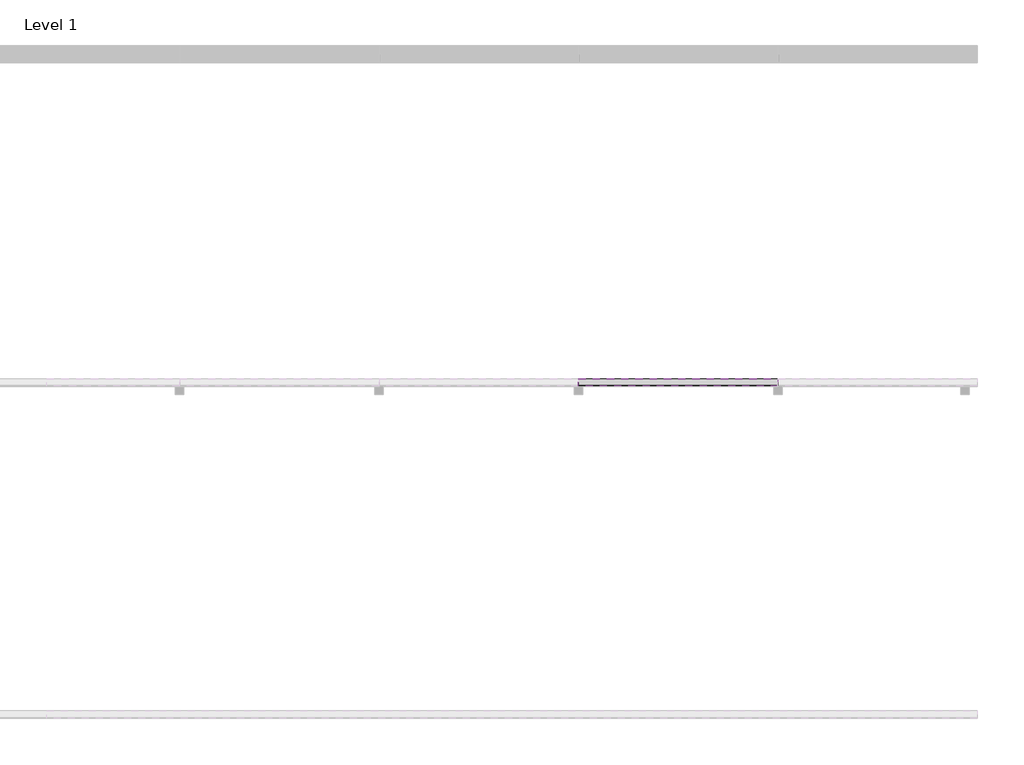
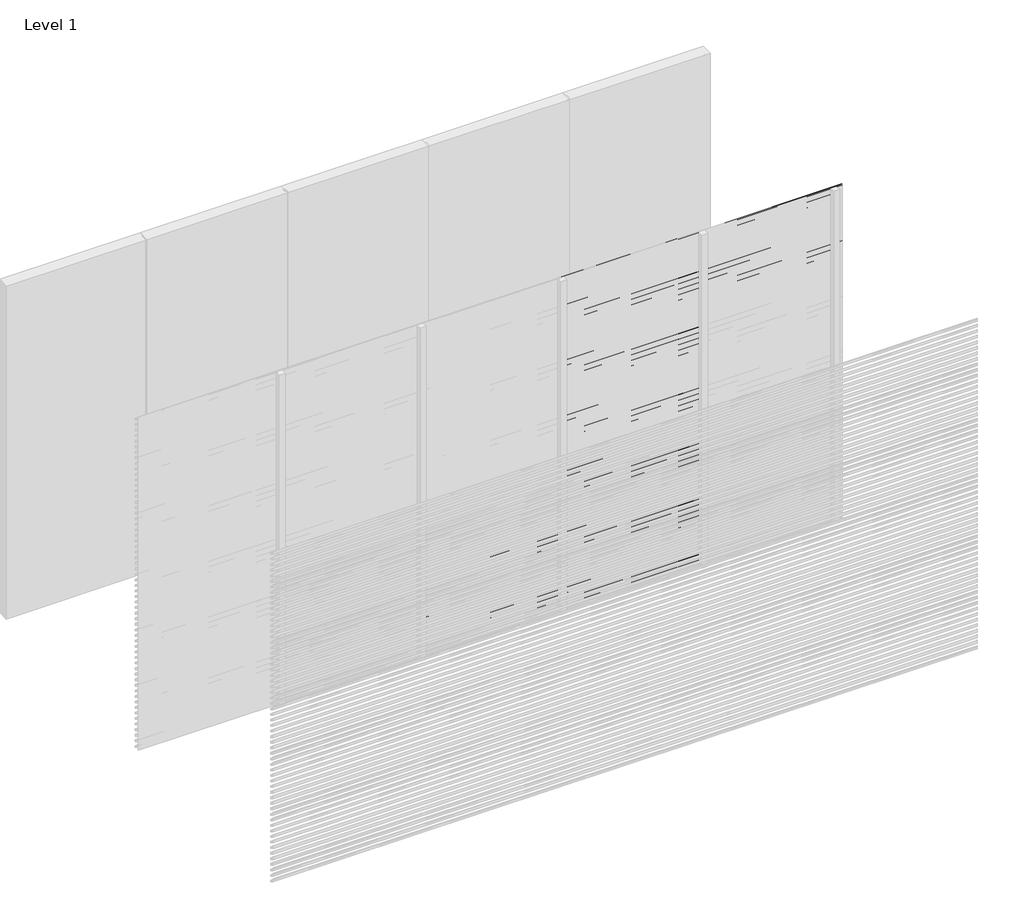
# One storey, part 8 of 16: 94 proxies.
"""IFC4 building model written with IfcOpenShell, lengths in millimetres."""

from ifc_helpers import new_model, si_unit, frame, origin, place, context, project, spatial, polyline, outline, extrude, element, save

model = new_model("IFC4")

# Units and contexts
model_context = context("Model", 3, world=origin())
ifc_project = project(units=[si_unit("LENGTHUNIT", "METRE", prefix="MILLI")], contexts=[model_context])

# Site, building, storey
site = spatial("IfcSite", under=ifc_project)
building = spatial("IfcBuilding", under=site)
storey = spatial("IfcBuildingStorey", under=building, Name="Level 1", Elevation=0.0)

# Proxies
placement = place(None, origin())
element("IfcBuildingElementProxy", 1, Name="Wall Sweeps", at=placement, inside=storey, context=model_context, shape_type="SweptSolid", body=[
    extrude(outline(polyline([(-11995.0, 850.0), (-11995.0, 839.6352854), (-11954.0, 815.0), (-11954.0, 800.0), (-11997.0, 825.8370066), (-11997.0, 850.0), (-11995.0, 850.0)])), frame((2400.0, 0.0, 0.0), z_axis=(1.0, 0.0, 0.0), x_axis=(0.0, 1.0, 0.0)), (0.0, 0.0, 1.0), 1200.0),
])
element("IfcBuildingElementProxy", 2, Name="Wall Sweeps", at=placement, inside=storey, context=model_context, shape_type="SweptSolid", body=[
    extrude(outline(polyline([(-11995.0, 800.0), (-11995.0, 789.6352854), (-11954.0, 765.0), (-11954.0, 750.0), (-11997.0, 775.8370066), (-11997.0, 800.0), (-11995.0, 800.0)])), frame((2400.0, 0.0, 0.0), z_axis=(1.0, 0.0, 0.0), x_axis=(0.0, 1.0, 0.0)), (0.0, 0.0, 1.0), 1200.0),
])
element("IfcBuildingElementProxy", 3, Name="Wall Sweeps", at=placement, inside=storey, context=model_context, shape_type="SweptSolid", body=[
    extrude(outline(polyline([(-11995.0, 750.0), (-11995.0, 739.6352854), (-11954.0, 715.0), (-11954.0, 700.0), (-11997.0, 725.8370066), (-11997.0, 750.0), (-11995.0, 750.0)])), frame((2400.0, 0.0, 0.0), z_axis=(1.0, 0.0, 0.0), x_axis=(0.0, 1.0, 0.0)), (0.0, 0.0, 1.0), 1200.0),
])
element("IfcBuildingElementProxy", 4, Name="Wall Sweeps", at=placement, inside=storey, context=model_context, shape_type="SweptSolid", body=[
    extrude(outline(polyline([(-11995.0, 700.0), (-11995.0, 689.6352854), (-11954.0, 665.0), (-11954.0, 650.0), (-11997.0, 675.8370066), (-11997.0, 700.0), (-11995.0, 700.0)])), frame((2400.0, 0.0, 0.0), z_axis=(1.0, 0.0, 0.0), x_axis=(0.0, 1.0, 0.0)), (0.0, 0.0, 1.0), 1200.0),
])
element("IfcBuildingElementProxy", 5, Name="Wall Sweeps", at=placement, inside=storey, context=model_context, shape_type="SweptSolid", body=[
    extrude(outline(polyline([(-11995.0, 650.0), (-11995.0, 639.6352854), (-11954.0, 615.0), (-11954.0, 600.0), (-11997.0, 625.8370066), (-11997.0, 650.0), (-11995.0, 650.0)])), frame((2400.0, 0.0, 0.0), z_axis=(1.0, 0.0, 0.0), x_axis=(0.0, 1.0, 0.0)), (0.0, 0.0, 1.0), 1200.0),
])
element("IfcBuildingElementProxy", 6, Name="Wall Sweeps", at=placement, inside=storey, context=model_context, shape_type="SweptSolid", body=[
    extrude(outline(polyline([(-11995.0, 600.0), (-11995.0, 589.6352854), (-11954.0, 565.0), (-11954.0, 550.0), (-11997.0, 575.8370066), (-11997.0, 600.0), (-11995.0, 600.0)])), frame((2400.0, 0.0, 0.0), z_axis=(1.0, 0.0, 0.0), x_axis=(0.0, 1.0, 0.0)), (0.0, 0.0, 1.0), 1200.0),
])
element("IfcBuildingElementProxy", 7, Name="Wall Sweeps", at=placement, inside=storey, context=model_context, shape_type="SweptSolid", body=[
    extrude(outline(polyline([(-11995.0, 550.0), (-11995.0, 539.6352854), (-11954.0, 515.0), (-11954.0, 500.0), (-11997.0, 525.8370066), (-11997.0, 550.0), (-11995.0, 550.0)])), frame((2400.0, 0.0, 0.0), z_axis=(1.0, 0.0, 0.0), x_axis=(0.0, 1.0, 0.0)), (0.0, 0.0, 1.0), 1200.0),
])
element("IfcBuildingElementProxy", 8, Name="Wall Sweeps", at=placement, inside=storey, context=model_context, shape_type="SweptSolid", body=[
    extrude(outline(polyline([(-11995.0, 500.0), (-11995.0, 489.6352854), (-11954.0, 465.0), (-11954.0, 450.0), (-11997.0, 475.8370066), (-11997.0, 500.0), (-11995.0, 500.0)])), frame((2400.0, 0.0, 0.0), z_axis=(1.0, 0.0, 0.0), x_axis=(0.0, 1.0, 0.0)), (0.0, 0.0, 1.0), 1200.0),
])
element("IfcBuildingElementProxy", 9, Name="Wall Sweeps", at=placement, inside=storey, context=model_context, shape_type="SweptSolid", body=[
    extrude(outline(polyline([(-11995.0, 450.0), (-11995.0, 439.6352854), (-11954.0, 415.0), (-11954.0, 400.0), (-11997.0, 425.8370066), (-11997.0, 450.0), (-11995.0, 450.0)])), frame((2400.0, 0.0, 0.0), z_axis=(1.0, 0.0, 0.0), x_axis=(0.0, 1.0, 0.0)), (0.0, 0.0, 1.0), 1200.0),
])
element("IfcBuildingElementProxy", 10, Name="Wall Sweeps", at=placement, inside=storey, context=model_context, shape_type="SweptSolid", body=[
    extrude(outline(polyline([(-11995.0, 400.0), (-11995.0, 389.6352854), (-11954.0, 365.0), (-11954.0, 350.0), (-11997.0, 375.8370066), (-11997.0, 400.0), (-11995.0, 400.0)])), frame((2400.0, 0.0, 0.0), z_axis=(1.0, 0.0, 0.0), x_axis=(0.0, 1.0, 0.0)), (0.0, 0.0, 1.0), 1200.0),
])
element("IfcBuildingElementProxy", 11, Name="Wall Sweeps", at=placement, inside=storey, context=model_context, shape_type="SweptSolid", body=[
    extrude(outline(polyline([(-11995.0, 350.0), (-11995.0, 339.6352854), (-11954.0, 315.0), (-11954.0, 300.0), (-11997.0, 325.8370066), (-11997.0, 350.0), (-11995.0, 350.0)])), frame((2400.0, 0.0, 0.0), z_axis=(1.0, 0.0, 0.0), x_axis=(0.0, 1.0, 0.0)), (0.0, 0.0, 1.0), 1200.0),
])
element("IfcBuildingElementProxy", 12, Name="Wall Sweeps", at=placement, inside=storey, context=model_context, shape_type="SweptSolid", body=[
    extrude(outline(polyline([(-11995.0, 300.0), (-11995.0, 289.6352854), (-11954.0, 265.0), (-11954.0, 250.0), (-11997.0, 275.8370066), (-11997.0, 300.0), (-11995.0, 300.0)])), frame((2400.0, 0.0, 0.0), z_axis=(1.0, 0.0, 0.0), x_axis=(0.0, 1.0, 0.0)), (0.0, 0.0, 1.0), 1200.0),
])
element("IfcBuildingElementProxy", 13, Name="Wall Sweeps", at=placement, inside=storey, context=model_context, shape_type="SweptSolid", body=[
    extrude(outline(polyline([(-11995.0, 250.0), (-11995.0, 239.6352854), (-11954.0, 215.0), (-11954.0, 200.0), (-11997.0, 225.8370066), (-11997.0, 250.0), (-11995.0, 250.0)])), frame((2400.0, 0.0, 0.0), z_axis=(1.0, 0.0, 0.0), x_axis=(0.0, 1.0, 0.0)), (0.0, 0.0, 1.0), 1200.0),
])
element("IfcBuildingElementProxy", 14, Name="Wall Sweeps", at=placement, inside=storey, context=model_context, shape_type="SweptSolid", body=[
    extrude(outline(polyline([(-11995.0, 200.0), (-11995.0, 189.6352854), (-11954.0, 165.0), (-11954.0, 150.0), (-11997.0, 175.8370066), (-11997.0, 200.0), (-11995.0, 200.0)])), frame((2400.0, 0.0, 0.0), z_axis=(1.0, 0.0, 0.0), x_axis=(0.0, 1.0, 0.0)), (0.0, 0.0, 1.0), 1200.0),
])
element("IfcBuildingElementProxy", 15, Name="Wall Sweeps", at=placement, inside=storey, context=model_context, shape_type="SweptSolid", body=[
    extrude(outline(polyline([(-11995.0, 150.0), (-11995.0, 139.6352854), (-11954.0, 115.0), (-11954.0, 100.0), (-11997.0, 125.8370066), (-11997.0, 150.0), (-11995.0, 150.0)])), frame((2400.0, 0.0, 0.0), z_axis=(1.0, 0.0, 0.0), x_axis=(0.0, 1.0, 0.0)), (0.0, 0.0, 1.0), 1200.0),
])
element("IfcBuildingElementProxy", 16, Name="Wall Sweeps", at=placement, inside=storey, context=model_context, shape_type="SweptSolid", body=[
    extrude(outline(polyline([(-11995.0, 100.0), (-11995.0, 89.6352854), (-11954.0, 65.0), (-11954.0, 50.0), (-11997.0, 75.8370066), (-11997.0, 100.0), (-11995.0, 100.0)])), frame((2400.0, 0.0, 0.0), z_axis=(1.0, 0.0, 0.0), x_axis=(0.0, 1.0, 0.0)), (0.0, 0.0, 1.0), 1200.0),
])
element("IfcBuildingElementProxy", 17, Name="Wall Sweeps", at=placement, inside=storey, context=model_context, shape_type="SweptSolid", body=[
    extrude(outline(polyline([(-11995.0, 50.0), (-11995.0, 39.6352854), (-11954.0, 15.0), (-11954.0, 0.0), (-11997.0, 25.8370066), (-11997.0, 50.0), (-11995.0, 50.0)])), frame((2400.0, 0.0, 0.0), z_axis=(1.0, 0.0, 0.0), x_axis=(0.0, 1.0, 0.0)), (0.0, 0.0, 1.0), 1200.0),
])
element("IfcBuildingElementProxy", 18, Name="Wall Sweeps", at=placement, inside=storey, context=model_context, shape_type="SweptSolid", body=[
    extrude(outline(polyline([(-11995.0, 3000.0), (-11995.0, 2989.6352854), (-11954.0, 2965.0), (-11954.0, 2950.0), (-11997.0, 2975.8370066), (-11997.0, 3000.0), (-11995.0, 3000.0)])), frame((3600.0, 0.0, 0.0), z_axis=(1.0, 0.0, 0.0), x_axis=(0.0, 1.0, 0.0)), (0.0, 0.0, 1.0), 1200.0),
])
element("IfcBuildingElementProxy", 19, Name="Wall Sweeps", at=placement, inside=storey, context=model_context, shape_type="SweptSolid", body=[
    extrude(outline(polyline([(-11995.0, 2950.0), (-11995.0, 2939.6352854), (-11954.0, 2915.0), (-11954.0, 2900.0), (-11997.0, 2925.8370066), (-11997.0, 2950.0), (-11995.0, 2950.0)])), frame((3600.0, 0.0, 0.0), z_axis=(1.0, 0.0, 0.0), x_axis=(0.0, 1.0, 0.0)), (0.0, 0.0, 1.0), 1200.0),
])
element("IfcBuildingElementProxy", 20, Name="Wall Sweeps", at=placement, inside=storey, context=model_context, shape_type="SweptSolid", body=[
    extrude(outline(polyline([(-11995.0, 2900.0), (-11995.0, 2889.6352854), (-11954.0, 2865.0), (-11954.0, 2850.0), (-11997.0, 2875.8370066), (-11997.0, 2900.0), (-11995.0, 2900.0)])), frame((3600.0, 0.0, 0.0), z_axis=(1.0, 0.0, 0.0), x_axis=(0.0, 1.0, 0.0)), (0.0, 0.0, 1.0), 1200.0),
])
element("IfcBuildingElementProxy", 21, Name="Wall Sweeps", at=placement, inside=storey, context=model_context, shape_type="SweptSolid", body=[
    extrude(outline(polyline([(-11995.0, 2850.0), (-11995.0, 2839.6352854), (-11954.0, 2815.0), (-11954.0, 2800.0), (-11997.0, 2825.8370066), (-11997.0, 2850.0), (-11995.0, 2850.0)])), frame((3600.0, 0.0, 0.0), z_axis=(1.0, 0.0, 0.0), x_axis=(0.0, 1.0, 0.0)), (0.0, 0.0, 1.0), 1200.0),
])
element("IfcBuildingElementProxy", 22, Name="Wall Sweeps", at=placement, inside=storey, context=model_context, shape_type="SweptSolid", body=[
    extrude(outline(polyline([(-11995.0, 2800.0), (-11995.0, 2789.6352854), (-11954.0, 2765.0), (-11954.0, 2750.0), (-11997.0, 2775.8370066), (-11997.0, 2800.0), (-11995.0, 2800.0)])), frame((3600.0, 0.0, 0.0), z_axis=(1.0, 0.0, 0.0), x_axis=(0.0, 1.0, 0.0)), (0.0, 0.0, 1.0), 1200.0),
])
element("IfcBuildingElementProxy", 23, Name="Wall Sweeps", at=placement, inside=storey, context=model_context, shape_type="SweptSolid", body=[
    extrude(outline(polyline([(-11995.0, 2750.0), (-11995.0, 2739.6352854), (-11954.0, 2715.0), (-11954.0, 2700.0), (-11997.0, 2725.8370066), (-11997.0, 2750.0), (-11995.0, 2750.0)])), frame((3600.0, 0.0, 0.0), z_axis=(1.0, 0.0, 0.0), x_axis=(0.0, 1.0, 0.0)), (0.0, 0.0, 1.0), 1200.0),
])
element("IfcBuildingElementProxy", 24, Name="Wall Sweeps", at=placement, inside=storey, context=model_context, shape_type="SweptSolid", body=[
    extrude(outline(polyline([(-11995.0, 2700.0), (-11995.0, 2689.6352854), (-11954.0, 2665.0), (-11954.0, 2650.0), (-11997.0, 2675.8370066), (-11997.0, 2700.0), (-11995.0, 2700.0)])), frame((3600.0, 0.0, 0.0), z_axis=(1.0, 0.0, 0.0), x_axis=(0.0, 1.0, 0.0)), (0.0, 0.0, 1.0), 1200.0),
])
element("IfcBuildingElementProxy", 25, Name="Wall Sweeps", at=placement, inside=storey, context=model_context, shape_type="SweptSolid", body=[
    extrude(outline(polyline([(-11995.0, 2650.0), (-11995.0, 2639.6352854), (-11954.0, 2615.0), (-11954.0, 2600.0), (-11997.0, 2625.8370066), (-11997.0, 2650.0), (-11995.0, 2650.0)])), frame((3600.0, 0.0, 0.0), z_axis=(1.0, 0.0, 0.0), x_axis=(0.0, 1.0, 0.0)), (0.0, 0.0, 1.0), 1200.0),
])
element("IfcBuildingElementProxy", 26, Name="Wall Sweeps", at=placement, inside=storey, context=model_context, shape_type="SweptSolid", body=[
    extrude(outline(polyline([(-11995.0, 2600.0), (-11995.0, 2589.6352854), (-11954.0, 2565.0), (-11954.0, 2550.0), (-11997.0, 2575.8370066), (-11997.0, 2600.0), (-11995.0, 2600.0)])), frame((3600.0, 0.0, 0.0), z_axis=(1.0, 0.0, 0.0), x_axis=(0.0, 1.0, 0.0)), (0.0, 0.0, 1.0), 1200.0),
])
element("IfcBuildingElementProxy", 27, Name="Wall Sweeps", at=placement, inside=storey, context=model_context, shape_type="SweptSolid", body=[
    extrude(outline(polyline([(-11995.0, 2550.0), (-11995.0, 2539.6352854), (-11954.0, 2515.0), (-11954.0, 2500.0), (-11997.0, 2525.8370066), (-11997.0, 2550.0), (-11995.0, 2550.0)])), frame((3600.0, 0.0, 0.0), z_axis=(1.0, 0.0, 0.0), x_axis=(0.0, 1.0, 0.0)), (0.0, 0.0, 1.0), 1200.0),
])
element("IfcBuildingElementProxy", 28, Name="Wall Sweeps", at=placement, inside=storey, context=model_context, shape_type="SweptSolid", body=[
    extrude(outline(polyline([(-11995.0, 2500.0), (-11995.0, 2489.6352854), (-11954.0, 2465.0), (-11954.0, 2450.0), (-11997.0, 2475.8370066), (-11997.0, 2500.0), (-11995.0, 2500.0)])), frame((3600.0, 0.0, 0.0), z_axis=(1.0, 0.0, 0.0), x_axis=(0.0, 1.0, 0.0)), (0.0, 0.0, 1.0), 1200.0),
])
element("IfcBuildingElementProxy", 29, Name="Wall Sweeps", at=placement, inside=storey, context=model_context, shape_type="SweptSolid", body=[
    extrude(outline(polyline([(-11995.0, 2450.0), (-11995.0, 2439.6352854), (-11954.0, 2415.0), (-11954.0, 2400.0), (-11997.0, 2425.8370066), (-11997.0, 2450.0), (-11995.0, 2450.0)])), frame((3600.0, 0.0, 0.0), z_axis=(1.0, 0.0, 0.0), x_axis=(0.0, 1.0, 0.0)), (0.0, 0.0, 1.0), 1200.0),
])
element("IfcBuildingElementProxy", 30, Name="Wall Sweeps", at=placement, inside=storey, context=model_context, shape_type="SweptSolid", body=[
    extrude(outline(polyline([(-11995.0, 2400.0), (-11995.0, 2389.6352854), (-11954.0, 2365.0), (-11954.0, 2350.0), (-11997.0, 2375.8370066), (-11997.0, 2400.0), (-11995.0, 2400.0)])), frame((3600.0, 0.0, 0.0), z_axis=(1.0, 0.0, 0.0), x_axis=(0.0, 1.0, 0.0)), (0.0, 0.0, 1.0), 1200.0),
])
element("IfcBuildingElementProxy", 31, Name="Wall Sweeps", at=placement, inside=storey, context=model_context, shape_type="SweptSolid", body=[
    extrude(outline(polyline([(-11995.0, 2350.0), (-11995.0, 2339.6352854), (-11954.0, 2315.0), (-11954.0, 2300.0), (-11997.0, 2325.8370066), (-11997.0, 2350.0), (-11995.0, 2350.0)])), frame((3600.0, 0.0, 0.0), z_axis=(1.0, 0.0, 0.0), x_axis=(0.0, 1.0, 0.0)), (0.0, 0.0, 1.0), 1200.0),
])
element("IfcBuildingElementProxy", 32, Name="Wall Sweeps", at=placement, inside=storey, context=model_context, shape_type="SweptSolid", body=[
    extrude(outline(polyline([(-11995.0, 2300.0), (-11995.0, 2289.6352854), (-11954.0, 2265.0), (-11954.0, 2250.0), (-11997.0, 2275.8370066), (-11997.0, 2300.0), (-11995.0, 2300.0)])), frame((3600.0, 0.0, 0.0), z_axis=(1.0, 0.0, 0.0), x_axis=(0.0, 1.0, 0.0)), (0.0, 0.0, 1.0), 1200.0),
])
element("IfcBuildingElementProxy", 33, Name="Wall Sweeps", at=placement, inside=storey, context=model_context, shape_type="SweptSolid", body=[
    extrude(outline(polyline([(-11995.0, 2250.0), (-11995.0, 2239.6352854), (-11954.0, 2215.0), (-11954.0, 2200.0), (-11997.0, 2225.8370066), (-11997.0, 2250.0), (-11995.0, 2250.0)])), frame((3600.0, 0.0, 0.0), z_axis=(1.0, 0.0, 0.0), x_axis=(0.0, 1.0, 0.0)), (0.0, 0.0, 1.0), 1200.0),
])
element("IfcBuildingElementProxy", 34, Name="Wall Sweeps", at=placement, inside=storey, context=model_context, shape_type="SweptSolid", body=[
    extrude(outline(polyline([(-11995.0, 2200.0), (-11995.0, 2189.6352854), (-11954.0, 2165.0), (-11954.0, 2150.0), (-11997.0, 2175.8370066), (-11997.0, 2200.0), (-11995.0, 2200.0)])), frame((3600.0, 0.0, 0.0), z_axis=(1.0, 0.0, 0.0), x_axis=(0.0, 1.0, 0.0)), (0.0, 0.0, 1.0), 1200.0),
])
element("IfcBuildingElementProxy", 35, Name="Wall Sweeps", at=placement, inside=storey, context=model_context, shape_type="SweptSolid", body=[
    extrude(outline(polyline([(-11995.0, 2150.0), (-11995.0, 2139.6352854), (-11954.0, 2115.0), (-11954.0, 2100.0), (-11997.0, 2125.8370066), (-11997.0, 2150.0), (-11995.0, 2150.0)])), frame((3600.0, 0.0, 0.0), z_axis=(1.0, 0.0, 0.0), x_axis=(0.0, 1.0, 0.0)), (0.0, 0.0, 1.0), 1200.0),
])
element("IfcBuildingElementProxy", 36, Name="Wall Sweeps", at=placement, inside=storey, context=model_context, shape_type="SweptSolid", body=[
    extrude(outline(polyline([(-11995.0, 2100.0), (-11995.0, 2089.6352854), (-11954.0, 2065.0), (-11954.0, 2050.0), (-11997.0, 2075.8370066), (-11997.0, 2100.0), (-11995.0, 2100.0)])), frame((3600.0, 0.0, 0.0), z_axis=(1.0, 0.0, 0.0), x_axis=(0.0, 1.0, 0.0)), (0.0, 0.0, 1.0), 1200.0),
])
element("IfcBuildingElementProxy", 37, Name="Wall Sweeps", at=placement, inside=storey, context=model_context, shape_type="SweptSolid", body=[
    extrude(outline(polyline([(-11995.0, 2050.0), (-11995.0, 2039.6352854), (-11954.0, 2015.0), (-11954.0, 2000.0), (-11997.0, 2025.8370066), (-11997.0, 2050.0), (-11995.0, 2050.0)])), frame((3600.0, 0.0, 0.0), z_axis=(1.0, 0.0, 0.0), x_axis=(0.0, 1.0, 0.0)), (0.0, 0.0, 1.0), 1200.0),
])
element("IfcBuildingElementProxy", 38, Name="Wall Sweeps", at=placement, inside=storey, context=model_context, shape_type="SweptSolid", body=[
    extrude(outline(polyline([(-11995.0, 2000.0), (-11995.0, 1989.6352854), (-11954.0, 1965.0), (-11954.0, 1950.0), (-11997.0, 1975.8370066), (-11997.0, 2000.0), (-11995.0, 2000.0)])), frame((3600.0, 0.0, 0.0), z_axis=(1.0, 0.0, 0.0), x_axis=(0.0, 1.0, 0.0)), (0.0, 0.0, 1.0), 1200.0),
])
element("IfcBuildingElementProxy", 39, Name="Wall Sweeps", at=placement, inside=storey, context=model_context, shape_type="SweptSolid", body=[
    extrude(outline(polyline([(-11995.0, 1950.0), (-11995.0, 1939.6352854), (-11954.0, 1915.0), (-11954.0, 1900.0), (-11997.0, 1925.8370066), (-11997.0, 1950.0), (-11995.0, 1950.0)])), frame((3600.0, 0.0, 0.0), z_axis=(1.0, 0.0, 0.0), x_axis=(0.0, 1.0, 0.0)), (0.0, 0.0, 1.0), 1200.0),
])
element("IfcBuildingElementProxy", 40, Name="Wall Sweeps", at=placement, inside=storey, context=model_context, shape_type="SweptSolid", body=[
    extrude(outline(polyline([(-11995.0, 1900.0), (-11995.0, 1889.6352854), (-11954.0, 1865.0), (-11954.0, 1850.0), (-11997.0, 1875.8370066), (-11997.0, 1900.0), (-11995.0, 1900.0)])), frame((3600.0, 0.0, 0.0), z_axis=(1.0, 0.0, 0.0), x_axis=(0.0, 1.0, 0.0)), (0.0, 0.0, 1.0), 1200.0),
])
element("IfcBuildingElementProxy", 41, Name="Wall Sweeps", at=placement, inside=storey, context=model_context, shape_type="SweptSolid", body=[
    extrude(outline(polyline([(-11995.0, 1850.0), (-11995.0, 1839.6352854), (-11954.0, 1815.0), (-11954.0, 1800.0), (-11997.0, 1825.8370066), (-11997.0, 1850.0), (-11995.0, 1850.0)])), frame((3600.0, 0.0, 0.0), z_axis=(1.0, 0.0, 0.0), x_axis=(0.0, 1.0, 0.0)), (0.0, 0.0, 1.0), 1200.0),
])
element("IfcBuildingElementProxy", 42, Name="Wall Sweeps", at=placement, inside=storey, context=model_context, shape_type="SweptSolid", body=[
    extrude(outline(polyline([(-11995.0, 1800.0), (-11995.0, 1789.6352854), (-11954.0, 1765.0), (-11954.0, 1750.0), (-11997.0, 1775.8370066), (-11997.0, 1800.0), (-11995.0, 1800.0)])), frame((3600.0, 0.0, 0.0), z_axis=(1.0, 0.0, 0.0), x_axis=(0.0, 1.0, 0.0)), (0.0, 0.0, 1.0), 1200.0),
])
element("IfcBuildingElementProxy", 43, Name="Wall Sweeps", at=placement, inside=storey, context=model_context, shape_type="SweptSolid", body=[
    extrude(outline(polyline([(-11995.0, 1750.0), (-11995.0, 1739.6352854), (-11954.0, 1715.0), (-11954.0, 1700.0), (-11997.0, 1725.8370066), (-11997.0, 1750.0), (-11995.0, 1750.0)])), frame((3600.0, 0.0, 0.0), z_axis=(1.0, 0.0, 0.0), x_axis=(0.0, 1.0, 0.0)), (0.0, 0.0, 1.0), 1200.0),
])
element("IfcBuildingElementProxy", 44, Name="Wall Sweeps", at=placement, inside=storey, context=model_context, shape_type="SweptSolid", body=[
    extrude(outline(polyline([(-11995.0, 1700.0), (-11995.0, 1689.6352854), (-11954.0, 1665.0), (-11954.0, 1650.0), (-11997.0, 1675.8370066), (-11997.0, 1700.0), (-11995.0, 1700.0)])), frame((3600.0, 0.0, 0.0), z_axis=(1.0, 0.0, 0.0), x_axis=(0.0, 1.0, 0.0)), (0.0, 0.0, 1.0), 1200.0),
])
element("IfcBuildingElementProxy", 45, Name="Wall Sweeps", at=placement, inside=storey, context=model_context, shape_type="SweptSolid", body=[
    extrude(outline(polyline([(-11995.0, 1650.0), (-11995.0, 1639.6352854), (-11954.0, 1615.0), (-11954.0, 1600.0), (-11997.0, 1625.8370066), (-11997.0, 1650.0), (-11995.0, 1650.0)])), frame((3600.0, 0.0, 0.0), z_axis=(1.0, 0.0, 0.0), x_axis=(0.0, 1.0, 0.0)), (0.0, 0.0, 1.0), 1200.0),
])
element("IfcBuildingElementProxy", 46, Name="Wall Sweeps", at=placement, inside=storey, context=model_context, shape_type="SweptSolid", body=[
    extrude(outline(polyline([(-11995.0, 1600.0), (-11995.0, 1589.6352854), (-11954.0, 1565.0), (-11954.0, 1550.0), (-11997.0, 1575.8370066), (-11997.0, 1600.0), (-11995.0, 1600.0)])), frame((3600.0, 0.0, 0.0), z_axis=(1.0, 0.0, 0.0), x_axis=(0.0, 1.0, 0.0)), (0.0, 0.0, 1.0), 1200.0),
])
element("IfcBuildingElementProxy", 47, Name="Wall Sweeps", at=placement, inside=storey, context=model_context, shape_type="SweptSolid", body=[
    extrude(outline(polyline([(-11995.0, 1550.0), (-11995.0, 1539.6352854), (-11954.0, 1515.0), (-11954.0, 1500.0), (-11997.0, 1525.8370066), (-11997.0, 1550.0), (-11995.0, 1550.0)])), frame((3600.0, 0.0, 0.0), z_axis=(1.0, 0.0, 0.0), x_axis=(0.0, 1.0, 0.0)), (0.0, 0.0, 1.0), 1200.0),
])
element("IfcBuildingElementProxy", 48, Name="Wall Sweeps", at=placement, inside=storey, context=model_context, shape_type="SweptSolid", body=[
    extrude(outline(polyline([(-11995.0, 1500.0), (-11995.0, 1489.6352854), (-11954.0, 1465.0), (-11954.0, 1450.0), (-11997.0, 1475.8370066), (-11997.0, 1500.0), (-11995.0, 1500.0)])), frame((3600.0, 0.0, 0.0), z_axis=(1.0, 0.0, 0.0), x_axis=(0.0, 1.0, 0.0)), (0.0, 0.0, 1.0), 1200.0),
])
element("IfcBuildingElementProxy", 49, Name="Wall Sweeps", at=placement, inside=storey, context=model_context, shape_type="SweptSolid", body=[
    extrude(outline(polyline([(-11995.0, 1450.0), (-11995.0, 1439.6352854), (-11954.0, 1415.0), (-11954.0, 1400.0), (-11997.0, 1425.8370066), (-11997.0, 1450.0), (-11995.0, 1450.0)])), frame((3600.0, 0.0, 0.0), z_axis=(1.0, 0.0, 0.0), x_axis=(0.0, 1.0, 0.0)), (0.0, 0.0, 1.0), 1200.0),
])
element("IfcBuildingElementProxy", 50, Name="Wall Sweeps", at=placement, inside=storey, context=model_context, shape_type="SweptSolid", body=[
    extrude(outline(polyline([(-11995.0, 1400.0), (-11995.0, 1389.6352854), (-11954.0, 1365.0), (-11954.0, 1350.0), (-11997.0, 1375.8370066), (-11997.0, 1400.0), (-11995.0, 1400.0)])), frame((3600.0, 0.0, 0.0), z_axis=(1.0, 0.0, 0.0), x_axis=(0.0, 1.0, 0.0)), (0.0, 0.0, 1.0), 1200.0),
])
element("IfcBuildingElementProxy", 51, Name="Wall Sweeps", at=placement, inside=storey, context=model_context, shape_type="SweptSolid", body=[
    extrude(outline(polyline([(-11995.0, 1350.0), (-11995.0, 1339.6352854), (-11954.0, 1315.0), (-11954.0, 1300.0), (-11997.0, 1325.8370066), (-11997.0, 1350.0), (-11995.0, 1350.0)])), frame((3600.0, 0.0, 0.0), z_axis=(1.0, 0.0, 0.0), x_axis=(0.0, 1.0, 0.0)), (0.0, 0.0, 1.0), 1200.0),
])
element("IfcBuildingElementProxy", 52, Name="Wall Sweeps", at=placement, inside=storey, context=model_context, shape_type="SweptSolid", body=[
    extrude(outline(polyline([(-11995.0, 1300.0), (-11995.0, 1289.6352854), (-11954.0, 1265.0), (-11954.0, 1250.0), (-11997.0, 1275.8370066), (-11997.0, 1300.0), (-11995.0, 1300.0)])), frame((3600.0, 0.0, 0.0), z_axis=(1.0, 0.0, 0.0), x_axis=(0.0, 1.0, 0.0)), (0.0, 0.0, 1.0), 1200.0),
])
element("IfcBuildingElementProxy", 53, Name="Wall Sweeps", at=placement, inside=storey, context=model_context, shape_type="SweptSolid", body=[
    extrude(outline(polyline([(-11995.0, 1250.0), (-11995.0, 1239.6352854), (-11954.0, 1215.0), (-11954.0, 1200.0), (-11997.0, 1225.8370066), (-11997.0, 1250.0), (-11995.0, 1250.0)])), frame((3600.0, 0.0, 0.0), z_axis=(1.0, 0.0, 0.0), x_axis=(0.0, 1.0, 0.0)), (0.0, 0.0, 1.0), 1200.0),
])
element("IfcBuildingElementProxy", 54, Name="Wall Sweeps", at=placement, inside=storey, context=model_context, shape_type="SweptSolid", body=[
    extrude(outline(polyline([(-11995.0, 1200.0), (-11995.0, 1189.6352854), (-11954.0, 1165.0), (-11954.0, 1150.0), (-11997.0, 1175.8370066), (-11997.0, 1200.0), (-11995.0, 1200.0)])), frame((3600.0, 0.0, 0.0), z_axis=(1.0, 0.0, 0.0), x_axis=(0.0, 1.0, 0.0)), (0.0, 0.0, 1.0), 1200.0),
])
element("IfcBuildingElementProxy", 55, Name="Wall Sweeps", at=placement, inside=storey, context=model_context, shape_type="SweptSolid", body=[
    extrude(outline(polyline([(-11995.0, 1150.0), (-11995.0, 1139.6352854), (-11954.0, 1115.0), (-11954.0, 1100.0), (-11997.0, 1125.8370066), (-11997.0, 1150.0), (-11995.0, 1150.0)])), frame((3600.0, 0.0, 0.0), z_axis=(1.0, 0.0, 0.0), x_axis=(0.0, 1.0, 0.0)), (0.0, 0.0, 1.0), 1200.0),
])
element("IfcBuildingElementProxy", 56, Name="Wall Sweeps", at=placement, inside=storey, context=model_context, shape_type="SweptSolid", body=[
    extrude(outline(polyline([(-11995.0, 1100.0), (-11995.0, 1089.6352854), (-11954.0, 1065.0), (-11954.0, 1050.0), (-11997.0, 1075.8370066), (-11997.0, 1100.0), (-11995.0, 1100.0)])), frame((3600.0, 0.0, 0.0), z_axis=(1.0, 0.0, 0.0), x_axis=(0.0, 1.0, 0.0)), (0.0, 0.0, 1.0), 1200.0),
])
element("IfcBuildingElementProxy", 57, Name="Wall Sweeps", at=placement, inside=storey, context=model_context, shape_type="SweptSolid", body=[
    extrude(outline(polyline([(-11995.0, 1050.0), (-11995.0, 1039.6352854), (-11954.0, 1015.0), (-11954.0, 1000.0), (-11997.0, 1025.8370066), (-11997.0, 1050.0), (-11995.0, 1050.0)])), frame((3600.0, 0.0, 0.0), z_axis=(1.0, 0.0, 0.0), x_axis=(0.0, 1.0, 0.0)), (0.0, 0.0, 1.0), 1200.0),
])
element("IfcBuildingElementProxy", 58, Name="Wall Sweeps", at=placement, inside=storey, context=model_context, shape_type="SweptSolid", body=[
    extrude(outline(polyline([(-11995.0, 1000.0), (-11995.0, 989.6352854), (-11954.0, 965.0), (-11954.0, 950.0), (-11997.0, 975.8370066), (-11997.0, 1000.0), (-11995.0, 1000.0)])), frame((3600.0, 0.0, 0.0), z_axis=(1.0, 0.0, 0.0), x_axis=(0.0, 1.0, 0.0)), (0.0, 0.0, 1.0), 1200.0),
])
element("IfcBuildingElementProxy", 59, Name="Wall Sweeps", at=placement, inside=storey, context=model_context, shape_type="SweptSolid", body=[
    extrude(outline(polyline([(-11995.0, 950.0), (-11995.0, 939.6352854), (-11954.0, 915.0), (-11954.0, 900.0), (-11997.0, 925.8370066), (-11997.0, 950.0), (-11995.0, 950.0)])), frame((3600.0, 0.0, 0.0), z_axis=(1.0, 0.0, 0.0), x_axis=(0.0, 1.0, 0.0)), (0.0, 0.0, 1.0), 1200.0),
])
element("IfcBuildingElementProxy", 60, Name="Wall Sweeps", at=placement, inside=storey, context=model_context, shape_type="SweptSolid", body=[
    extrude(outline(polyline([(-11995.0, 900.0), (-11995.0, 889.6352854), (-11954.0, 865.0), (-11954.0, 850.0), (-11997.0, 875.8370066), (-11997.0, 900.0), (-11995.0, 900.0)])), frame((3600.0, 0.0, 0.0), z_axis=(1.0, 0.0, 0.0), x_axis=(0.0, 1.0, 0.0)), (0.0, 0.0, 1.0), 1200.0),
])
element("IfcBuildingElementProxy", 61, Name="Wall Sweeps", at=placement, inside=storey, context=model_context, shape_type="SweptSolid", body=[
    extrude(outline(polyline([(-11995.0, 850.0), (-11995.0, 839.6352854), (-11954.0, 815.0), (-11954.0, 800.0), (-11997.0, 825.8370066), (-11997.0, 850.0), (-11995.0, 850.0)])), frame((3600.0, 0.0, 0.0), z_axis=(1.0, 0.0, 0.0), x_axis=(0.0, 1.0, 0.0)), (0.0, 0.0, 1.0), 1200.0),
])
element("IfcBuildingElementProxy", 62, Name="Wall Sweeps", at=placement, inside=storey, context=model_context, shape_type="SweptSolid", body=[
    extrude(outline(polyline([(-11995.0, 800.0), (-11995.0, 789.6352854), (-11954.0, 765.0), (-11954.0, 750.0), (-11997.0, 775.8370066), (-11997.0, 800.0), (-11995.0, 800.0)])), frame((3600.0, 0.0, 0.0), z_axis=(1.0, 0.0, 0.0), x_axis=(0.0, 1.0, 0.0)), (0.0, 0.0, 1.0), 1200.0),
])
element("IfcBuildingElementProxy", 63, Name="Wall Sweeps", at=placement, inside=storey, context=model_context, shape_type="SweptSolid", body=[
    extrude(outline(polyline([(-11995.0, 750.0), (-11995.0, 739.6352854), (-11954.0, 715.0), (-11954.0, 700.0), (-11997.0, 725.8370066), (-11997.0, 750.0), (-11995.0, 750.0)])), frame((3600.0, 0.0, 0.0), z_axis=(1.0, 0.0, 0.0), x_axis=(0.0, 1.0, 0.0)), (0.0, 0.0, 1.0), 1200.0),
])
element("IfcBuildingElementProxy", 64, Name="Wall Sweeps", at=placement, inside=storey, context=model_context, shape_type="SweptSolid", body=[
    extrude(outline(polyline([(-11995.0, 700.0), (-11995.0, 689.6352854), (-11954.0, 665.0), (-11954.0, 650.0), (-11997.0, 675.8370066), (-11997.0, 700.0), (-11995.0, 700.0)])), frame((3600.0, 0.0, 0.0), z_axis=(1.0, 0.0, 0.0), x_axis=(0.0, 1.0, 0.0)), (0.0, 0.0, 1.0), 1200.0),
])
element("IfcBuildingElementProxy", 65, Name="Wall Sweeps", at=placement, inside=storey, context=model_context, shape_type="SweptSolid", body=[
    extrude(outline(polyline([(-11995.0, 650.0), (-11995.0, 639.6352854), (-11954.0, 615.0), (-11954.0, 600.0), (-11997.0, 625.8370066), (-11997.0, 650.0), (-11995.0, 650.0)])), frame((3600.0, 0.0, 0.0), z_axis=(1.0, 0.0, 0.0), x_axis=(0.0, 1.0, 0.0)), (0.0, 0.0, 1.0), 1200.0),
])
element("IfcBuildingElementProxy", 66, Name="Wall Sweeps", at=placement, inside=storey, context=model_context, shape_type="SweptSolid", body=[
    extrude(outline(polyline([(-11995.0, 600.0), (-11995.0, 589.6352854), (-11954.0, 565.0), (-11954.0, 550.0), (-11997.0, 575.8370066), (-11997.0, 600.0), (-11995.0, 600.0)])), frame((3600.0, 0.0, 0.0), z_axis=(1.0, 0.0, 0.0), x_axis=(0.0, 1.0, 0.0)), (0.0, 0.0, 1.0), 1200.0),
])
element("IfcBuildingElementProxy", 67, Name="Wall Sweeps", at=placement, inside=storey, context=model_context, shape_type="SweptSolid", body=[
    extrude(outline(polyline([(-11995.0, 550.0), (-11995.0, 539.6352854), (-11954.0, 515.0), (-11954.0, 500.0), (-11997.0, 525.8370066), (-11997.0, 550.0), (-11995.0, 550.0)])), frame((3600.0, 0.0, 0.0), z_axis=(1.0, 0.0, 0.0), x_axis=(0.0, 1.0, 0.0)), (0.0, 0.0, 1.0), 1200.0),
])
element("IfcBuildingElementProxy", 68, Name="Wall Sweeps", at=placement, inside=storey, context=model_context, shape_type="SweptSolid", body=[
    extrude(outline(polyline([(-11995.0, 500.0), (-11995.0, 489.6352854), (-11954.0, 465.0), (-11954.0, 450.0), (-11997.0, 475.8370066), (-11997.0, 500.0), (-11995.0, 500.0)])), frame((3600.0, 0.0, 0.0), z_axis=(1.0, 0.0, 0.0), x_axis=(0.0, 1.0, 0.0)), (0.0, 0.0, 1.0), 1200.0),
])
element("IfcBuildingElementProxy", 69, Name="Wall Sweeps", at=placement, inside=storey, context=model_context, shape_type="SweptSolid", body=[
    extrude(outline(polyline([(-11995.0, 450.0), (-11995.0, 439.6352854), (-11954.0, 415.0), (-11954.0, 400.0), (-11997.0, 425.8370066), (-11997.0, 450.0), (-11995.0, 450.0)])), frame((3600.0, 0.0, 0.0), z_axis=(1.0, 0.0, 0.0), x_axis=(0.0, 1.0, 0.0)), (0.0, 0.0, 1.0), 1200.0),
])
element("IfcBuildingElementProxy", 70, Name="Wall Sweeps", at=placement, inside=storey, context=model_context, shape_type="SweptSolid", body=[
    extrude(outline(polyline([(-11995.0, 400.0), (-11995.0, 389.6352854), (-11954.0, 365.0), (-11954.0, 350.0), (-11997.0, 375.8370066), (-11997.0, 400.0), (-11995.0, 400.0)])), frame((3600.0, 0.0, 0.0), z_axis=(1.0, 0.0, 0.0), x_axis=(0.0, 1.0, 0.0)), (0.0, 0.0, 1.0), 1200.0),
])
element("IfcBuildingElementProxy", 71, Name="Wall Sweeps", at=placement, inside=storey, context=model_context, shape_type="SweptSolid", body=[
    extrude(outline(polyline([(-11995.0, 350.0), (-11995.0, 339.6352854), (-11954.0, 315.0), (-11954.0, 300.0), (-11997.0, 325.8370066), (-11997.0, 350.0), (-11995.0, 350.0)])), frame((3600.0, 0.0, 0.0), z_axis=(1.0, 0.0, 0.0), x_axis=(0.0, 1.0, 0.0)), (0.0, 0.0, 1.0), 1200.0),
])
element("IfcBuildingElementProxy", 72, Name="Wall Sweeps", at=placement, inside=storey, context=model_context, shape_type="SweptSolid", body=[
    extrude(outline(polyline([(-11995.0, 300.0), (-11995.0, 289.6352854), (-11954.0, 265.0), (-11954.0, 250.0), (-11997.0, 275.8370066), (-11997.0, 300.0), (-11995.0, 300.0)])), frame((3600.0, 0.0, 0.0), z_axis=(1.0, 0.0, 0.0), x_axis=(0.0, 1.0, 0.0)), (0.0, 0.0, 1.0), 1200.0),
])
element("IfcBuildingElementProxy", 73, Name="Wall Sweeps", at=placement, inside=storey, context=model_context, shape_type="SweptSolid", body=[
    extrude(outline(polyline([(-11995.0, 250.0), (-11995.0, 239.6352854), (-11954.0, 215.0), (-11954.0, 200.0), (-11997.0, 225.8370066), (-11997.0, 250.0), (-11995.0, 250.0)])), frame((3600.0, 0.0, 0.0), z_axis=(1.0, 0.0, 0.0), x_axis=(0.0, 1.0, 0.0)), (0.0, 0.0, 1.0), 1200.0),
])
element("IfcBuildingElementProxy", 74, Name="Wall Sweeps", at=placement, inside=storey, context=model_context, shape_type="SweptSolid", body=[
    extrude(outline(polyline([(-11995.0, 200.0), (-11995.0, 189.6352854), (-11954.0, 165.0), (-11954.0, 150.0), (-11997.0, 175.8370066), (-11997.0, 200.0), (-11995.0, 200.0)])), frame((3600.0, 0.0, 0.0), z_axis=(1.0, 0.0, 0.0), x_axis=(0.0, 1.0, 0.0)), (0.0, 0.0, 1.0), 1200.0),
])
element("IfcBuildingElementProxy", 75, Name="Wall Sweeps", at=placement, inside=storey, context=model_context, shape_type="SweptSolid", body=[
    extrude(outline(polyline([(-11995.0, 150.0), (-11995.0, 139.6352854), (-11954.0, 115.0), (-11954.0, 100.0), (-11997.0, 125.8370066), (-11997.0, 150.0), (-11995.0, 150.0)])), frame((3600.0, 0.0, 0.0), z_axis=(1.0, 0.0, 0.0), x_axis=(0.0, 1.0, 0.0)), (0.0, 0.0, 1.0), 1200.0),
])
element("IfcBuildingElementProxy", 76, Name="Wall Sweeps", at=placement, inside=storey, context=model_context, shape_type="SweptSolid", body=[
    extrude(outline(polyline([(-11995.0, 100.0), (-11995.0, 89.6352854), (-11954.0, 65.0), (-11954.0, 50.0), (-11997.0, 75.8370066), (-11997.0, 100.0), (-11995.0, 100.0)])), frame((3600.0, 0.0, 0.0), z_axis=(1.0, 0.0, 0.0), x_axis=(0.0, 1.0, 0.0)), (0.0, 0.0, 1.0), 1200.0),
])
element("IfcBuildingElementProxy", 77, Name="Wall Sweeps", at=placement, inside=storey, context=model_context, shape_type="SweptSolid", body=[
    extrude(outline(polyline([(-11995.0, 50.0), (-11995.0, 39.6352854), (-11954.0, 15.0), (-11954.0, 0.0), (-11997.0, 25.8370066), (-11997.0, 50.0), (-11995.0, 50.0)])), frame((3600.0, 0.0, 0.0), z_axis=(1.0, 0.0, 0.0), x_axis=(0.0, 1.0, 0.0)), (0.0, 0.0, 1.0), 1200.0),
])
element("IfcBuildingElementProxy", 78, Name="Wall Sweeps", at=placement, inside=storey, context=model_context, shape_type="SweptSolid", body=[
    extrude(outline(polyline([(-11995.0, 3000.0), (-11995.0, 2989.6352854), (-11954.0, 2965.0), (-11954.0, 2950.0), (-11997.0, 2975.8370066), (-11997.0, 3000.0), (-11995.0, 3000.0)])), frame((4800.0, 0.0, 0.0), z_axis=(1.0, 0.0, 0.0), x_axis=(0.0, 1.0, 0.0)), (0.0, 0.0, 1.0), 1200.0),
])
element("IfcBuildingElementProxy", 79, Name="Wall Sweeps", at=placement, inside=storey, context=model_context, shape_type="SweptSolid", body=[
    extrude(outline(polyline([(-11995.0, 2950.0), (-11995.0, 2939.6352854), (-11954.0, 2915.0), (-11954.0, 2900.0), (-11997.0, 2925.8370066), (-11997.0, 2950.0), (-11995.0, 2950.0)])), frame((4800.0, 0.0, 0.0), z_axis=(1.0, 0.0, 0.0), x_axis=(0.0, 1.0, 0.0)), (0.0, 0.0, 1.0), 1200.0),
])
element("IfcBuildingElementProxy", 80, Name="Wall Sweeps", at=placement, inside=storey, context=model_context, shape_type="SweptSolid", body=[
    extrude(outline(polyline([(-11995.0, 2900.0), (-11995.0, 2889.6352854), (-11954.0, 2865.0), (-11954.0, 2850.0), (-11997.0, 2875.8370066), (-11997.0, 2900.0), (-11995.0, 2900.0)])), frame((4800.0, 0.0, 0.0), z_axis=(1.0, 0.0, 0.0), x_axis=(0.0, 1.0, 0.0)), (0.0, 0.0, 1.0), 1200.0),
])
element("IfcBuildingElementProxy", 81, Name="Wall Sweeps", at=placement, inside=storey, context=model_context, shape_type="SweptSolid", body=[
    extrude(outline(polyline([(-11995.0, 2850.0), (-11995.0, 2839.6352854), (-11954.0, 2815.0), (-11954.0, 2800.0), (-11997.0, 2825.8370066), (-11997.0, 2850.0), (-11995.0, 2850.0)])), frame((4800.0, 0.0, 0.0), z_axis=(1.0, 0.0, 0.0), x_axis=(0.0, 1.0, 0.0)), (0.0, 0.0, 1.0), 1200.0),
])
element("IfcBuildingElementProxy", 82, Name="Wall Sweeps", at=placement, inside=storey, context=model_context, shape_type="SweptSolid", body=[
    extrude(outline(polyline([(-11995.0, 2800.0), (-11995.0, 2789.6352854), (-11954.0, 2765.0), (-11954.0, 2750.0), (-11997.0, 2775.8370066), (-11997.0, 2800.0), (-11995.0, 2800.0)])), frame((4800.0, 0.0, 0.0), z_axis=(1.0, 0.0, 0.0), x_axis=(0.0, 1.0, 0.0)), (0.0, 0.0, 1.0), 1200.0),
])
element("IfcBuildingElementProxy", 83, Name="Wall Sweeps", at=placement, inside=storey, context=model_context, shape_type="SweptSolid", body=[
    extrude(outline(polyline([(-11995.0, 2750.0), (-11995.0, 2739.6352854), (-11954.0, 2715.0), (-11954.0, 2700.0), (-11997.0, 2725.8370066), (-11997.0, 2750.0), (-11995.0, 2750.0)])), frame((4800.0, 0.0, 0.0), z_axis=(1.0, 0.0, 0.0), x_axis=(0.0, 1.0, 0.0)), (0.0, 0.0, 1.0), 1200.0),
])
element("IfcBuildingElementProxy", 84, Name="Wall Sweeps", at=placement, inside=storey, context=model_context, shape_type="SweptSolid", body=[
    extrude(outline(polyline([(-11995.0, 2700.0), (-11995.0, 2689.6352854), (-11954.0, 2665.0), (-11954.0, 2650.0), (-11997.0, 2675.8370066), (-11997.0, 2700.0), (-11995.0, 2700.0)])), frame((4800.0, 0.0, 0.0), z_axis=(1.0, 0.0, 0.0), x_axis=(0.0, 1.0, 0.0)), (0.0, 0.0, 1.0), 1200.0),
])
element("IfcBuildingElementProxy", 85, Name="Wall Sweeps", at=placement, inside=storey, context=model_context, shape_type="SweptSolid", body=[
    extrude(outline(polyline([(-11995.0, 2650.0), (-11995.0, 2639.6352854), (-11954.0, 2615.0), (-11954.0, 2600.0), (-11997.0, 2625.8370066), (-11997.0, 2650.0), (-11995.0, 2650.0)])), frame((4800.0, 0.0, 0.0), z_axis=(1.0, 0.0, 0.0), x_axis=(0.0, 1.0, 0.0)), (0.0, 0.0, 1.0), 1200.0),
])
element("IfcBuildingElementProxy", 86, Name="Wall Sweeps", at=placement, inside=storey, context=model_context, shape_type="SweptSolid", body=[
    extrude(outline(polyline([(-11995.0, 2600.0), (-11995.0, 2589.6352854), (-11954.0, 2565.0), (-11954.0, 2550.0), (-11997.0, 2575.8370066), (-11997.0, 2600.0), (-11995.0, 2600.0)])), frame((4800.0, 0.0, 0.0), z_axis=(1.0, 0.0, 0.0), x_axis=(0.0, 1.0, 0.0)), (0.0, 0.0, 1.0), 1200.0),
])
element("IfcBuildingElementProxy", 87, Name="Wall Sweeps", at=placement, inside=storey, context=model_context, shape_type="SweptSolid", body=[
    extrude(outline(polyline([(-11995.0, 2550.0), (-11995.0, 2539.6352854), (-11954.0, 2515.0), (-11954.0, 2500.0), (-11997.0, 2525.8370066), (-11997.0, 2550.0), (-11995.0, 2550.0)])), frame((4800.0, 0.0, 0.0), z_axis=(1.0, 0.0, 0.0), x_axis=(0.0, 1.0, 0.0)), (0.0, 0.0, 1.0), 1200.0),
])
element("IfcBuildingElementProxy", 88, Name="Wall Sweeps", at=placement, inside=storey, context=model_context, shape_type="SweptSolid", body=[
    extrude(outline(polyline([(-11995.0, 2500.0), (-11995.0, 2489.6352854), (-11954.0, 2465.0), (-11954.0, 2450.0), (-11997.0, 2475.8370066), (-11997.0, 2500.0), (-11995.0, 2500.0)])), frame((4800.0, 0.0, 0.0), z_axis=(1.0, 0.0, 0.0), x_axis=(0.0, 1.0, 0.0)), (0.0, 0.0, 1.0), 1200.0),
])
element("IfcBuildingElementProxy", 89, Name="Wall Sweeps", at=placement, inside=storey, context=model_context, shape_type="SweptSolid", body=[
    extrude(outline(polyline([(-11995.0, 2450.0), (-11995.0, 2439.6352854), (-11954.0, 2415.0), (-11954.0, 2400.0), (-11997.0, 2425.8370066), (-11997.0, 2450.0), (-11995.0, 2450.0)])), frame((4800.0, 0.0, 0.0), z_axis=(1.0, 0.0, 0.0), x_axis=(0.0, 1.0, 0.0)), (0.0, 0.0, 1.0), 1200.0),
])
element("IfcBuildingElementProxy", 90, Name="Wall Sweeps", at=placement, inside=storey, context=model_context, shape_type="SweptSolid", body=[
    extrude(outline(polyline([(-11995.0, 2400.0), (-11995.0, 2389.6352854), (-11954.0, 2365.0), (-11954.0, 2350.0), (-11997.0, 2375.8370066), (-11997.0, 2400.0), (-11995.0, 2400.0)])), frame((4800.0, 0.0, 0.0), z_axis=(1.0, 0.0, 0.0), x_axis=(0.0, 1.0, 0.0)), (0.0, 0.0, 1.0), 1200.0),
])
element("IfcBuildingElementProxy", 91, Name="Wall Sweeps", at=placement, inside=storey, context=model_context, shape_type="SweptSolid", body=[
    extrude(outline(polyline([(-11995.0, 2350.0), (-11995.0, 2339.6352854), (-11954.0, 2315.0), (-11954.0, 2300.0), (-11997.0, 2325.8370066), (-11997.0, 2350.0), (-11995.0, 2350.0)])), frame((4800.0, 0.0, 0.0), z_axis=(1.0, 0.0, 0.0), x_axis=(0.0, 1.0, 0.0)), (0.0, 0.0, 1.0), 1200.0),
])
element("IfcBuildingElementProxy", 92, Name="Wall Sweeps", at=placement, inside=storey, context=model_context, shape_type="SweptSolid", body=[
    extrude(outline(polyline([(-11995.0, 2300.0), (-11995.0, 2289.6352854), (-11954.0, 2265.0), (-11954.0, 2250.0), (-11997.0, 2275.8370066), (-11997.0, 2300.0), (-11995.0, 2300.0)])), frame((4800.0, 0.0, 0.0), z_axis=(1.0, 0.0, 0.0), x_axis=(0.0, 1.0, 0.0)), (0.0, 0.0, 1.0), 1200.0),
])
element("IfcBuildingElementProxy", 93, Name="Wall Sweeps", at=placement, inside=storey, context=model_context, shape_type="SweptSolid", body=[
    extrude(outline(polyline([(-11995.0, 2250.0), (-11995.0, 2239.6352854), (-11954.0, 2215.0), (-11954.0, 2200.0), (-11997.0, 2225.8370066), (-11997.0, 2250.0), (-11995.0, 2250.0)])), frame((4800.0, 0.0, 0.0), z_axis=(1.0, 0.0, 0.0), x_axis=(0.0, 1.0, 0.0)), (0.0, 0.0, 1.0), 1200.0),
])
element("IfcBuildingElementProxy", 94, Name="Wall Sweeps", at=placement, inside=storey, context=model_context, shape_type="SweptSolid", body=[
    extrude(outline(polyline([(-11995.0, 2200.0), (-11995.0, 2189.6352854), (-11954.0, 2165.0), (-11954.0, 2150.0), (-11997.0, 2175.8370066), (-11997.0, 2200.0), (-11995.0, 2200.0)])), frame((4800.0, 0.0, 0.0), z_axis=(1.0, 0.0, 0.0), x_axis=(0.0, 1.0, 0.0)), (0.0, 0.0, 1.0), 1200.0),
])

save(model, "model.ifc")
